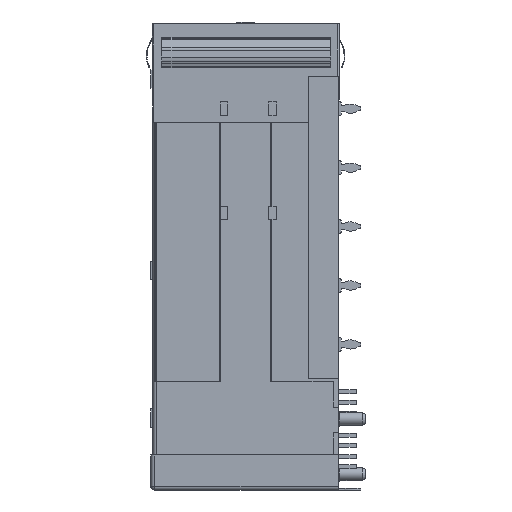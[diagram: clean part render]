
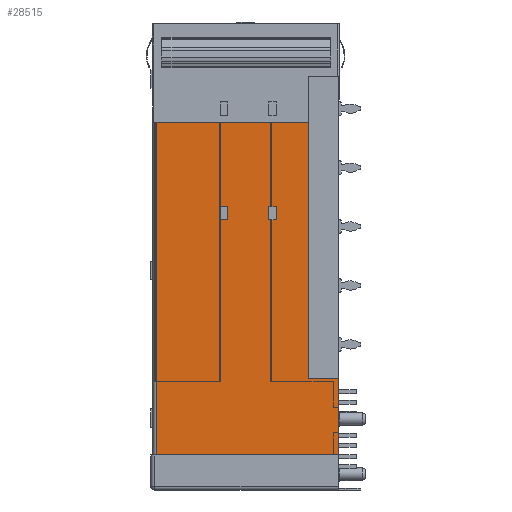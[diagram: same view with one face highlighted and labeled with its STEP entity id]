
A CAD part, left-side view. The second image highlights one B-rep face of the part: STEP entity #28515.
In plain terms, the highlighted planar face has unit normal (-1, 0, 0).
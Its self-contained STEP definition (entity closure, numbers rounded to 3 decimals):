
#981 = CARTESIAN_POINT ( 'NONE',  ( -42.875, 25.2, -13.4 ) ) ;
#1973 = EDGE_CURVE ( 'NONE', #91794, #98450, #55142, .T. ) ;
#3000 = VERTEX_POINT ( 'NONE', #97915 ) ;
#3242 = ORIENTED_EDGE ( 'NONE', *, *, #72674, .T. ) ;
#3382 = DIRECTION ( 'NONE',  ( 0., 0., 1. ) ) ;
#3499 = EDGE_CURVE ( 'NONE', #82701, #79700, #20848, .T. ) ;
#4283 = ORIENTED_EDGE ( 'NONE', *, *, #57139, .T. ) ;
#6379 = DIRECTION ( 'NONE',  ( 0., -1., 0. ) ) ;
#6775 = VECTOR ( 'NONE', #23982, 1000. ) ;
#7184 = CARTESIAN_POINT ( 'NONE',  ( -42.875, 25.2, -58.5 ) ) ;
#7192 = VECTOR ( 'NONE', #52946, 1000. ) ;
#7560 = CARTESIAN_POINT ( 'NONE',  ( -42.875, 0., -48.1 ) ) ;
#7597 = LINE ( 'NONE', #16870, #82081 ) ;
#8027 = AXIS2_PLACEMENT_3D ( 'NONE', #88258, #49767, #3382 ) ;
#9537 = DIRECTION ( 'NONE',  ( 0., -1., 0. ) ) ;
#10362 = CARTESIAN_POINT ( 'NONE',  ( -42.875, 9.45, -24.8 ) ) ;
#10857 = CARTESIAN_POINT ( 'NONE',  ( -42.875, 16., -24.8 ) ) ;
#11185 = ORIENTED_EDGE ( 'NONE', *, *, #39026, .T. ) ;
#11557 = EDGE_LOOP ( 'NONE', ( #58327, #81986, #3242, #71679, #58990, #77633 ) ) ;
#11576 = DIRECTION ( 'NONE',  ( 0., 0., 1. ) ) ;
#12557 = VECTOR ( 'NONE', #80217, 1000. ) ;
#14642 = EDGE_CURVE ( 'NONE', #52082, #73897, #31083, .T. ) ;
#16870 = CARTESIAN_POINT ( 'NONE',  ( -42.875, 9.45, -24.8 ) ) ;
#18680 = CARTESIAN_POINT ( 'NONE',  ( -42.875, 4.1, -48.1 ) ) ;
#20848 = LINE ( 'NONE', #65503, #85453 ) ;
#20912 = EDGE_CURVE ( 'NONE', #30596, #95027, #96348, .T. ) ;
#21995 = LINE ( 'NONE', #22141, #69582 ) ;
#22141 = CARTESIAN_POINT ( 'NONE',  ( -42.875, 9.45, -26.6 ) ) ;
#23171 = VECTOR ( 'NONE', #36930, 1000. ) ;
#23352 = VECTOR ( 'NONE', #75415, 1000. ) ;
#23474 = DIRECTION ( 'NONE',  ( 0., 1., 0. ) ) ;
#23982 = DIRECTION ( 'NONE',  ( 0., 1., 0. ) ) ;
#24349 = ORIENTED_EDGE ( 'NONE', *, *, #1973, .T. ) ;
#25505 = VECTOR ( 'NONE', #79204, 1000. ) ;
#26278 = DIRECTION ( 'NONE',  ( 0., 0., 1. ) ) ;
#27237 = DIRECTION ( 'NONE',  ( 0., -1., 0. ) ) ;
#28515 = ADVANCED_FACE ( 'NONE', ( #53097, #84765, #55560 ), #56963, .T. ) ;
#29108 = VERTEX_POINT ( 'NONE', #7560 ) ;
#30596 = VERTEX_POINT ( 'NONE', #96985 ) ;
#31083 = LINE ( 'NONE', #10857, #56709 ) ;
#31513 = CARTESIAN_POINT ( 'NONE',  ( -42.875, 16., -26.6 ) ) ;
#32878 = CARTESIAN_POINT ( 'NONE',  ( -42.875, 16., -26.6 ) ) ;
#33498 = ORIENTED_EDGE ( 'NONE', *, *, #46355, .T. ) ;
#35746 = ORIENTED_EDGE ( 'NONE', *, *, #46212, .T. ) ;
#36642 = LINE ( 'NONE', #59007, #73239 ) ;
#36856 = VECTOR ( 'NONE', #6379, 1000. ) ;
#36930 = DIRECTION ( 'NONE',  ( 0., -1., 0. ) ) ;
#37217 = DIRECTION ( 'NONE',  ( 0., 0., 1. ) ) ;
#38315 = EDGE_CURVE ( 'NONE', #98450, #3000, #73371, .T. ) ;
#39026 = EDGE_CURVE ( 'NONE', #3000, #50713, #21995, .T. ) ;
#40264 = CARTESIAN_POINT ( 'NONE',  ( -42.875, 15., -24.8 ) ) ;
#40850 = EDGE_LOOP ( 'NONE', ( #24349, #92662, #11185, #42696 ) ) ;
#41277 = CARTESIAN_POINT ( 'NONE',  ( -42.875, 4.1, -13.4 ) ) ;
#42141 = CARTESIAN_POINT ( 'NONE',  ( -42.875, 9.45, -26.6 ) ) ;
#42696 = ORIENTED_EDGE ( 'NONE', *, *, #56252, .T. ) ;
#42763 = CARTESIAN_POINT ( 'NONE',  ( -42.875, 0., -58.5 ) ) ;
#44063 = VECTOR ( 'NONE', #37217, 1000. ) ;
#46212 = EDGE_CURVE ( 'NONE', #76143, #72162, #87406, .T. ) ;
#46355 = EDGE_CURVE ( 'NONE', #73897, #76143, #91778, .T. ) ;
#48914 = LINE ( 'NONE', #65577, #44063 ) ;
#49767 = DIRECTION ( 'NONE',  ( -1., 0., 0. ) ) ;
#50713 = VERTEX_POINT ( 'NONE', #42141 ) ;
#52082 = VERTEX_POINT ( 'NONE', #54372 ) ;
#52234 = EDGE_CURVE ( 'NONE', #29108, #82701, #90331, .T. ) ;
#52946 = DIRECTION ( 'NONE',  ( 0., 0., -1. ) ) ;
#53097 = FACE_BOUND ( 'NONE', #40850, .T. ) ;
#53599 = CARTESIAN_POINT ( 'NONE',  ( -42.875, 24.7, -63.25 ) ) ;
#54372 = CARTESIAN_POINT ( 'NONE',  ( -42.875, 16., -24.8 ) ) ;
#55132 = DIRECTION ( 'NONE',  ( 0., 0., 1. ) ) ;
#55142 = LINE ( 'NONE', #84455, #36856 ) ;
#55560 = FACE_OUTER_BOUND ( 'NONE', #11557, .T. ) ;
#56252 = EDGE_CURVE ( 'NONE', #50713, #91794, #7597, .T. ) ;
#56709 = VECTOR ( 'NONE', #27237, 1000. ) ;
#56963 = PLANE ( 'NONE',  #8027 ) ;
#57061 = VECTOR ( 'NONE', #9537, 1000. ) ;
#57139 = EDGE_CURVE ( 'NONE', #72162, #52082, #48914, .T. ) ;
#57421 = CARTESIAN_POINT ( 'NONE',  ( -42.875, 8.45, -24.8 ) ) ;
#58327 = ORIENTED_EDGE ( 'NONE', *, *, #89061, .F. ) ;
#58990 = ORIENTED_EDGE ( 'NONE', *, *, #52234, .T. ) ;
#59007 = CARTESIAN_POINT ( 'NONE',  ( -42.875, 0., -63.25 ) ) ;
#65503 = CARTESIAN_POINT ( 'NONE',  ( -42.875, 4.1, -7.1 ) ) ;
#65577 = CARTESIAN_POINT ( 'NONE',  ( -42.875, 16., -24.8 ) ) ;
#69582 = VECTOR ( 'NONE', #23474, 1000. ) ;
#70517 = CARTESIAN_POINT ( 'NONE',  ( -42.875, 8.45, -24.8 ) ) ;
#71411 = CARTESIAN_POINT ( 'NONE',  ( -42.875, 0., -48.1 ) ) ;
#71679 = ORIENTED_EDGE ( 'NONE', *, *, #94916, .T. ) ;
#72162 = VERTEX_POINT ( 'NONE', #32878 ) ;
#72674 = EDGE_CURVE ( 'NONE', #95027, #96012, #98765, .T. ) ;
#73239 = VECTOR ( 'NONE', #26278, 1000. ) ;
#73371 = LINE ( 'NONE', #57421, #23352 ) ;
#73897 = VERTEX_POINT ( 'NONE', #40264 ) ;
#75415 = DIRECTION ( 'NONE',  ( 0., 0., -1. ) ) ;
#76143 = VERTEX_POINT ( 'NONE', #86149 ) ;
#77633 = ORIENTED_EDGE ( 'NONE', *, *, #3499, .T. ) ;
#77761 = LINE ( 'NONE', #981, #57061 ) ;
#79204 = DIRECTION ( 'NONE',  ( 0., 1., 0. ) ) ;
#79700 = VERTEX_POINT ( 'NONE', #41277 ) ;
#80217 = DIRECTION ( 'NONE',  ( 0., 0., -1. ) ) ;
#81986 = ORIENTED_EDGE ( 'NONE', *, *, #20912, .T. ) ;
#82081 = VECTOR ( 'NONE', #55132, 1000. ) ;
#82701 = VERTEX_POINT ( 'NONE', #18680 ) ;
#84455 = CARTESIAN_POINT ( 'NONE',  ( -42.875, 9.45, -24.8 ) ) ;
#84765 = FACE_BOUND ( 'NONE', #89059, .T. ) ;
#85453 = VECTOR ( 'NONE', #11576, 1000. ) ;
#86149 = CARTESIAN_POINT ( 'NONE',  ( -42.875, 15., -26.6 ) ) ;
#87406 = LINE ( 'NONE', #31513, #6775 ) ;
#88258 = CARTESIAN_POINT ( 'NONE',  ( -42.875, 0., -63.25 ) ) ;
#88362 = CARTESIAN_POINT ( 'NONE',  ( -42.875, 15., -24.8 ) ) ;
#89059 = EDGE_LOOP ( 'NONE', ( #89163, #33498, #35746, #4283 ) ) ;
#89061 = EDGE_CURVE ( 'NONE', #30596, #79700, #77761, .T. ) ;
#89163 = ORIENTED_EDGE ( 'NONE', *, *, #14642, .T. ) ;
#90331 = LINE ( 'NONE', #71411, #25505 ) ;
#91778 = LINE ( 'NONE', #88362, #12557 ) ;
#91794 = VERTEX_POINT ( 'NONE', #10362 ) ;
#92662 = ORIENTED_EDGE ( 'NONE', *, *, #38315, .T. ) ;
#94916 = EDGE_CURVE ( 'NONE', #96012, #29108, #36642, .T. ) ;
#95027 = VERTEX_POINT ( 'NONE', #98467 ) ;
#96012 = VERTEX_POINT ( 'NONE', #42763 ) ;
#96348 = LINE ( 'NONE', #53599, #7192 ) ;
#96985 = CARTESIAN_POINT ( 'NONE',  ( -42.875, 24.7, -13.4 ) ) ;
#97915 = CARTESIAN_POINT ( 'NONE',  ( -42.875, 8.45, -26.6 ) ) ;
#98450 = VERTEX_POINT ( 'NONE', #70517 ) ;
#98467 = CARTESIAN_POINT ( 'NONE',  ( -42.875, 24.7, -58.5 ) ) ;
#98765 = LINE ( 'NONE', #7184, #23171 ) ;
